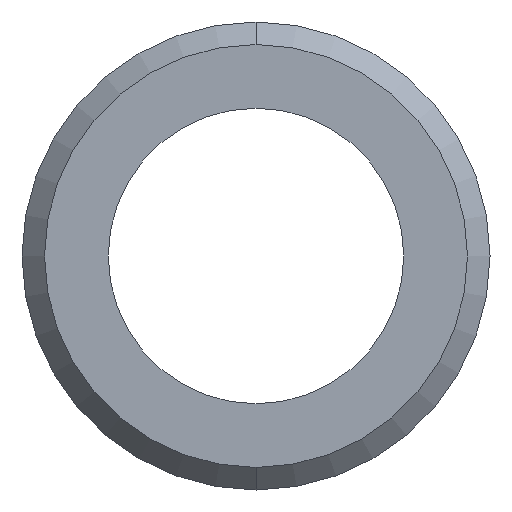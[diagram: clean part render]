
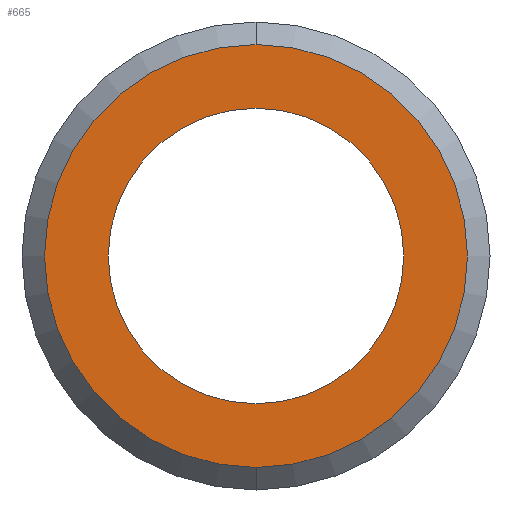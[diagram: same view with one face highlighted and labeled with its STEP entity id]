
A CAD part, left-side view. The second image highlights one B-rep face of the part: STEP entity #665.
In plain terms, the highlighted planar face has unit normal (-1, 0, 0).
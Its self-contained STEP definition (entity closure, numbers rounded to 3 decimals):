
#143=CARTESIAN_POINT('',(-12.5,10.5,0.0));
#144=VERTEX_POINT('',#143);
#160=CARTESIAN_POINT('',(-12.5,-10.5,0.));
#161=VERTEX_POINT('',#160);
#168=CARTESIAN_POINT('',(-12.5,0.0,0.0));
#169=DIRECTION('',(1.0,0.0,0.0));
#170=DIRECTION('',(0.0,1.0,0.0));
#171=AXIS2_PLACEMENT_3D('',#168,#169,#170);
#172=CIRCLE('',#171,10.5);
#173=EDGE_CURVE('',#144,#161,#172,.T.);
#373=CARTESIAN_POINT('',(-12.5,-15.024,0.0));
#374=VERTEX_POINT('',#373);
#390=CARTESIAN_POINT('',(-12.5,15.024,0.));
#391=VERTEX_POINT('',#390);
#398=CARTESIAN_POINT('',(-12.5,0.0,0.0));
#399=DIRECTION('',(1.0,0.0,0.0));
#400=DIRECTION('',(0.0,-1.0,0.0));
#401=AXIS2_PLACEMENT_3D('',#398,#399,#400);
#402=CIRCLE('',#401,15.024);
#403=EDGE_CURVE('',#391,#374,#402,.T.);
#634=CARTESIAN_POINT('',(-12.5,0.0,0.0));
#635=DIRECTION('',(1.0,0.0,0.0));
#636=DIRECTION('',(0.0,-1.0,0.0));
#637=AXIS2_PLACEMENT_3D('',#634,#635,#636);
#638=CIRCLE('',#637,15.024);
#639=EDGE_CURVE('',#374,#391,#638,.T.);
#646=CARTESIAN_POINT('',(-12.5,13.562,0.0));
#647=DIRECTION('',(-1.0,0.0,0.0));
#648=DIRECTION('',(0.0,0.0,1.0));
#649=AXIS2_PLACEMENT_3D('',#646,#647,#648);
#650=PLANE('',#649);
#651=ORIENTED_EDGE('',*,*,#403,.F.);
#652=ORIENTED_EDGE('',*,*,#639,.F.);
#653=EDGE_LOOP('',(#651,#652));
#654=FACE_OUTER_BOUND('',#653,.T.);
#655=ORIENTED_EDGE('',*,*,#173,.T.);
#656=CARTESIAN_POINT('',(-12.5,0.0,0.0));
#657=DIRECTION('',(1.0,0.0,0.0));
#658=DIRECTION('',(0.0,1.0,0.0));
#659=AXIS2_PLACEMENT_3D('',#656,#657,#658);
#660=CIRCLE('',#659,10.5);
#661=EDGE_CURVE('',#161,#144,#660,.T.);
#662=ORIENTED_EDGE('',*,*,#661,.T.);
#663=EDGE_LOOP('',(#655,#662));
#664=FACE_BOUND('',#663,.T.);
#665=ADVANCED_FACE('',(#654,#664),#650,.T.);
